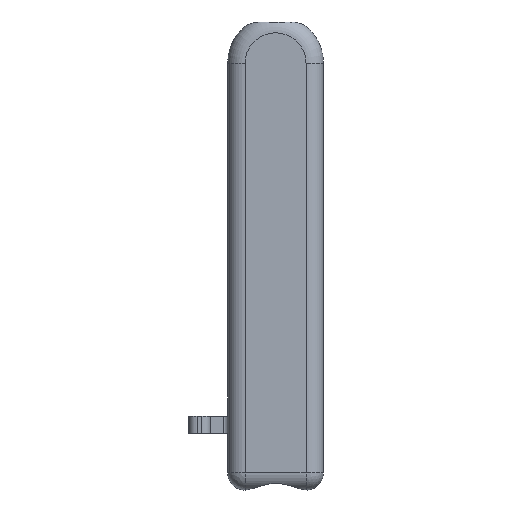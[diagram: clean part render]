
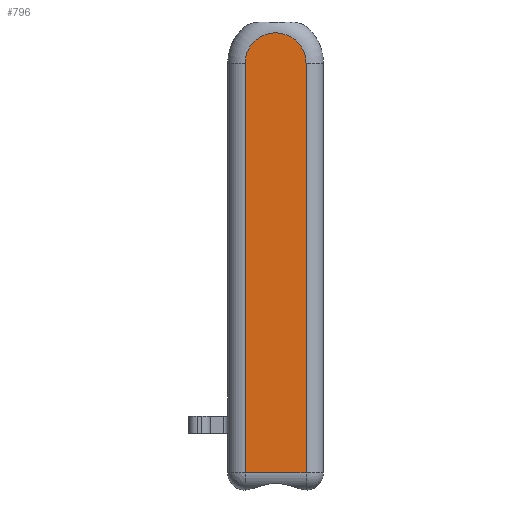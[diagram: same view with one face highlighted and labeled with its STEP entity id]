
A CAD part, front view. The second image highlights one B-rep face of the part: STEP entity #796.
In plain terms, the highlighted planar face has unit normal (0, -1, 0).
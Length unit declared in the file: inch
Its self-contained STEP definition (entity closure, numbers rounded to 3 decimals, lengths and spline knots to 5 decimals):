
#30=PLANE('',#899);
#52=CIRCLE('',#836,0.27559);
#125=FACE_OUTER_BOUND('',#168,.T.);
#168=EDGE_LOOP('',(#727,#728,#729,#730));
#172=LINE('',#1323,#231);
#224=LINE('',#1496,#283);
#228=LINE('',#1510,#287);
#231=VECTOR('',#927,0.55118);
#283=VECTOR('',#1113,3.70079);
#287=VECTOR('',#1135,3.70079);
#321=VERTEX_POINT('',#1320);
#322=VERTEX_POINT('',#1322);
#328=VERTEX_POINT('',#1342);
#329=VERTEX_POINT('',#1344);
#401=EDGE_CURVE('',#321,#322,#172,.T.);
#412=EDGE_CURVE('',#328,#329,#52,.T.);
#489=EDGE_CURVE('',#329,#321,#224,.T.);
#496=EDGE_CURVE('',#322,#328,#228,.T.);
#727=ORIENTED_EDGE('',*,*,#496,.F.);
#728=ORIENTED_EDGE('',*,*,#401,.F.);
#729=ORIENTED_EDGE('',*,*,#489,.F.);
#730=ORIENTED_EDGE('',*,*,#412,.F.);
#796=ADVANCED_FACE('',(#125),#30,.F.);
#836=AXIS2_PLACEMENT_3D('',#1345,#955,#956);
#899=AXIS2_PLACEMENT_3D('',#1511,#1136,#1137);
#927=DIRECTION('',(-1.,0.,0.));
#955=DIRECTION('center_axis',(0.,1.,0.));
#956=DIRECTION('ref_axis',(0.,0.,1.));
#1113=DIRECTION('',(0.,0.,-1.));
#1135=DIRECTION('',(0.,0.,1.));
#1136=DIRECTION('center_axis',(0.,1.,0.));
#1137=DIRECTION('ref_axis',(0.,0.,1.));
#1320=CARTESIAN_POINT('',(0.27559,-0.43307,0.19685));
#1322=CARTESIAN_POINT('',(-0.27559,-0.43307,0.19685));
#1323=CARTESIAN_POINT('',(0.27559,-0.43307,0.19685));
#1342=CARTESIAN_POINT('',(-0.27559,-0.43307,3.89764));
#1344=CARTESIAN_POINT('',(0.27559,-0.43307,3.89764));
#1345=CARTESIAN_POINT('Origin',(0.,-0.43307,
3.89764));
#1496=CARTESIAN_POINT('',(0.27559,-0.43307,3.89764));
#1510=CARTESIAN_POINT('',(-0.27559,-0.43307,0.19685));
#1511=CARTESIAN_POINT('Origin',(0.,-0.43307,
3.89764));
